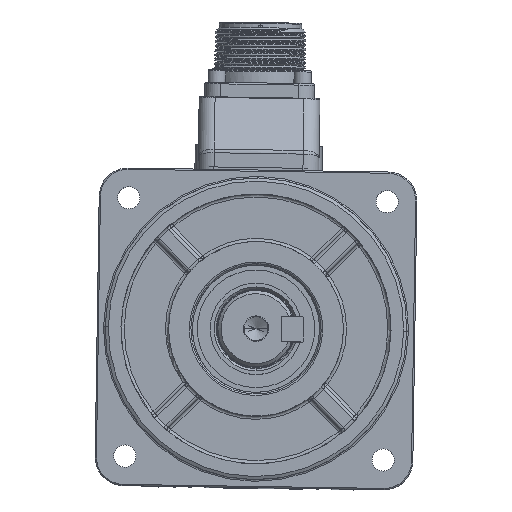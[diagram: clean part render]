
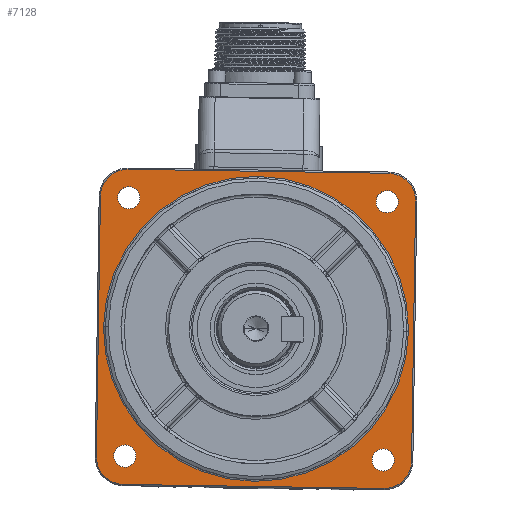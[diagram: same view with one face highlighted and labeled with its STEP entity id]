
A CAD part, top view. The second image highlights one B-rep face of the part: STEP entity #7128.
In plain terms, the highlighted planar face has unit normal (0, 0, 1) as drawn and (0, 1, 0) by its records, which use the part's own axes.
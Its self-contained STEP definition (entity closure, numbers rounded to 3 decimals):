
#1373=CARTESIAN_POINT('',(-41.,0.,-41.));
#1374=DIRECTION('',(0.,-1.,0.));
#1375=DIRECTION('',(-1.,0.,0.));
#1376=AXIS2_PLACEMENT_3D('',#1373,#1374,#1375);
#1378=DIRECTION('',(1.,0.,0.));
#1379=VECTOR('',#1378,82.);
#1380=CARTESIAN_POINT('',(-41.,0.,
-49.6));
#1381=LINE('',#1380,#1379);
#1382=CARTESIAN_POINT('',(41.,0.,-41.));
#1383=DIRECTION('',(0.,-1.,0.));
#1384=DIRECTION('',(0.,0.,-1.));
#1385=AXIS2_PLACEMENT_3D('',#1382,#1383,#1384);
#1387=DIRECTION('',(0.,0.,1.));
#1388=VECTOR('',#1387,82.);
#1389=CARTESIAN_POINT('',(49.6,0.,
-41.));
#1390=LINE('',#1389,#1388);
#1391=CARTESIAN_POINT('',(41.,0.,41.));
#1392=DIRECTION('',(0.,-1.,0.));
#1393=DIRECTION('',(1.,0.,0.));
#1394=AXIS2_PLACEMENT_3D('',#1391,#1392,#1393);
#1396=DIRECTION('',(-1.,0.,0.));
#1397=VECTOR('',#1396,82.);
#1398=CARTESIAN_POINT('',(41.,0.,
49.6));
#1399=LINE('',#1398,#1397);
#1400=CARTESIAN_POINT('',(-41.,0.,41.));
#1401=DIRECTION('',(0.,-1.,0.));
#1402=DIRECTION('',(0.,0.,1.));
#1403=AXIS2_PLACEMENT_3D('',#1400,#1401,#1402);
#1405=DIRECTION('',(0.,0.,-1.));
#1406=VECTOR('',#1405,82.);
#1407=CARTESIAN_POINT('',(-49.6,0.,
41.));
#1408=LINE('',#1407,#1406);
#1409=CARTESIAN_POINT('',(-40.659,0.,-40.659));
#1410=DIRECTION('',(0.,1.,0.));
#1411=DIRECTION('',(0.,0.,1.));
#1412=AXIS2_PLACEMENT_3D('',#1409,#1410,#1411);
#1414=CARTESIAN_POINT('',(-40.659,0.,-40.659));
#1415=DIRECTION('',(0.,1.,0.));
#1416=DIRECTION('',(0.,0.,-1.));
#1417=AXIS2_PLACEMENT_3D('',#1414,#1415,#1416);
#1419=CARTESIAN_POINT('',(-40.659,0.,40.659));
#1420=DIRECTION('',(0.,1.,0.));
#1421=DIRECTION('',(1.,0.,0.));
#1422=AXIS2_PLACEMENT_3D('',#1419,#1420,#1421);
#1424=CARTESIAN_POINT('',(-40.659,0.,40.659));
#1425=DIRECTION('',(0.,1.,0.));
#1426=DIRECTION('',(-1.,0.,0.));
#1427=AXIS2_PLACEMENT_3D('',#1424,#1425,#1426);
#1429=CARTESIAN_POINT('',(40.659,0.,40.659));
#1430=DIRECTION('',(0.,1.,0.));
#1431=DIRECTION('',(0.,0.,-1.));
#1432=AXIS2_PLACEMENT_3D('',#1429,#1430,#1431);
#1434=CARTESIAN_POINT('',(40.659,0.,40.659));
#1435=DIRECTION('',(0.,1.,0.));
#1436=DIRECTION('',(0.,0.,1.));
#1437=AXIS2_PLACEMENT_3D('',#1434,#1435,#1436);
#1439=CARTESIAN_POINT('',(0.,0.,0.));
#1440=DIRECTION('',(0.,1.,0.));
#1441=DIRECTION('',(-1.,0.,0.));
#1442=AXIS2_PLACEMENT_3D('',#1439,#1440,#1441);
#1444=CARTESIAN_POINT('',(0.,0.,0.));
#1445=DIRECTION('',(0.,1.,0.));
#1446=DIRECTION('',(-1.,0.,0.006));
#1447=AXIS2_PLACEMENT_3D('',#1444,#1445,#1446);
#1449=CARTESIAN_POINT('',(0.,0.,0.));
#1450=DIRECTION('',(0.,1.,0.));
#1451=DIRECTION('',(1.,0.,0.));
#1452=AXIS2_PLACEMENT_3D('',#1449,#1450,#1451);
#1454=CARTESIAN_POINT('',(0.,0.,0.));
#1455=DIRECTION('',(0.,1.,0.));
#1456=DIRECTION('',(1.,0.,-0.006));
#1457=AXIS2_PLACEMENT_3D('',#1454,#1455,#1456);
#1459=CARTESIAN_POINT('',(40.659,0.,-40.659));
#1460=DIRECTION('',(0.,1.,0.));
#1461=DIRECTION('',(-1.,0.,0.));
#1462=AXIS2_PLACEMENT_3D('',#1459,#1460,#1461);
#1464=CARTESIAN_POINT('',(40.659,0.,-40.659));
#1465=DIRECTION('',(0.,1.,0.));
#1466=DIRECTION('',(1.,0.,0.));
#1467=AXIS2_PLACEMENT_3D('',#1464,#1465,#1466);
#6583=CARTESIAN_POINT('',(41.,0.,
49.6));
#6584=CARTESIAN_POINT('',(-41.,0.,
49.6));
#6585=VERTEX_POINT('',#6583);
#6586=VERTEX_POINT('',#6584);
#6587=CARTESIAN_POINT('',(-49.6,0.,-41.));
#6588=CARTESIAN_POINT('',(-41.,0.,-49.6));
#6589=VERTEX_POINT('',#6587);
#6590=VERTEX_POINT('',#6588);
#6591=CARTESIAN_POINT('',(41.,0.,
-49.6));
#6592=VERTEX_POINT('',#6591);
#6593=CARTESIAN_POINT('',(49.6,0.,-41.));
#6594=VERTEX_POINT('',#6593);
#6595=CARTESIAN_POINT('',(49.6,0.,41.));
#6596=VERTEX_POINT('',#6595);
#6597=CARTESIAN_POINT('',(-49.6,0.,41.));
#6598=VERTEX_POINT('',#6597);
#6599=CARTESIAN_POINT('',(-40.659,0.,-37.159));
#6600=CARTESIAN_POINT('',(-40.659,0.,-44.159));
#6601=VERTEX_POINT('',#6599);
#6602=VERTEX_POINT('',#6600);
#6603=CARTESIAN_POINT('',(-37.159,0.,40.659));
#6604=CARTESIAN_POINT('',(-44.159,0.,40.659));
#6605=VERTEX_POINT('',#6603);
#6606=VERTEX_POINT('',#6604);
#6607=CARTESIAN_POINT('',(40.659,0.,37.159));
#6608=CARTESIAN_POINT('',(40.659,0.,44.159));
#6609=VERTEX_POINT('',#6607);
#6610=VERTEX_POINT('',#6608);
#6611=CARTESIAN_POINT('',(-47.999,0.,0.3));
#6612=CARTESIAN_POINT('',(48.,0.,0.));
#6613=VERTEX_POINT('',#6611);
#6614=VERTEX_POINT('',#6612);
#6615=CARTESIAN_POINT('',(-48.,0.,0.));
#6616=VERTEX_POINT('',#6615);
#6617=CARTESIAN_POINT('',(47.999,0.,-0.3));
#6618=VERTEX_POINT('',#6617);
#6619=CARTESIAN_POINT('',(37.159,0.,-40.659));
#6620=CARTESIAN_POINT('',(44.159,0.,-40.659));
#6621=VERTEX_POINT('',#6619);
#6622=VERTEX_POINT('',#6620);
#7075=CARTESIAN_POINT('',(0.,0.,0.));
#7076=DIRECTION('',(0.,-1.,0.));
#7077=DIRECTION('',(-1.,0.,0.));
#7078=AXIS2_PLACEMENT_3D('',#7075,#7076,#7077);
#7079=PLANE('',#7078);
#7081=ORIENTED_EDGE('',*,*,#7080,.T.);
#7083=ORIENTED_EDGE('',*,*,#7082,.T.);
#7085=ORIENTED_EDGE('',*,*,#7084,.T.);
#7087=ORIENTED_EDGE('',*,*,#7086,.T.);
#7089=ORIENTED_EDGE('',*,*,#7088,.T.);
#7091=ORIENTED_EDGE('',*,*,#7090,.T.);
#7093=ORIENTED_EDGE('',*,*,#7092,.T.);
#7095=ORIENTED_EDGE('',*,*,#7094,.T.);
#7096=EDGE_LOOP('',(#7081,#7083,#7085,#7087,#7089,#7091,#7093,#7095));
#7097=FACE_OUTER_BOUND('',#7096,.F.);
#7099=ORIENTED_EDGE('',*,*,#7098,.T.);
#7101=ORIENTED_EDGE('',*,*,#7100,.T.);
#7102=EDGE_LOOP('',(#7099,#7101));
#7103=FACE_BOUND('',#7102,.F.);
#7105=ORIENTED_EDGE('',*,*,#7104,.T.);
#7107=ORIENTED_EDGE('',*,*,#7106,.T.);
#7108=EDGE_LOOP('',(#7105,#7107));
#7109=FACE_BOUND('',#7108,.F.);
#7111=ORIENTED_EDGE('',*,*,#7110,.T.);
#7113=ORIENTED_EDGE('',*,*,#7112,.T.);
#7114=EDGE_LOOP('',(#7111,#7113));
#7115=FACE_BOUND('',#7114,.F.);
#7116=ORIENTED_EDGE('',*,*,#7052,.T.);
#7117=ORIENTED_EDGE('',*,*,#7050,.T.);
#7118=ORIENTED_EDGE('',*,*,#7069,.T.);
#7119=ORIENTED_EDGE('',*,*,#7067,.T.);
#7120=EDGE_LOOP('',(#7116,#7117,#7118,#7119));
#7121=FACE_BOUND('',#7120,.F.);
#7123=ORIENTED_EDGE('',*,*,#7122,.T.);
#7125=ORIENTED_EDGE('',*,*,#7124,.T.);
#7126=EDGE_LOOP('',(#7123,#7125));
#7127=FACE_BOUND('',#7126,.F.);
#7128=ADVANCED_FACE('',(#7097,#7103,#7109,#7115,#7121,#7127),#7079,.F.);
#1377=CIRCLE('',#1376,8.6);
#1386=CIRCLE('',#1385,8.6);
#1395=CIRCLE('',#1394,8.6);
#1404=CIRCLE('',#1403,8.6);
#1413=CIRCLE('',#1412,3.5);
#1418=CIRCLE('',#1417,3.5);
#1423=CIRCLE('',#1422,3.5);
#1428=CIRCLE('',#1427,3.5);
#1433=CIRCLE('',#1432,3.5);
#1438=CIRCLE('',#1437,3.5);
#1443=CIRCLE('',#1442,48.);
#1448=CIRCLE('',#1447,48.);
#1453=CIRCLE('',#1452,48.);
#1458=CIRCLE('',#1457,48.);
#1463=CIRCLE('',#1462,3.5);
#1468=CIRCLE('',#1467,3.5);
#7050=EDGE_CURVE('',#6613,#6614,#1448,.T.);
#7052=EDGE_CURVE('',#6616,#6613,#1443,.T.);
#7067=EDGE_CURVE('',#6618,#6616,#1458,.T.);
#7069=EDGE_CURVE('',#6614,#6618,#1453,.T.);
#7080=EDGE_CURVE('',#6589,#6590,#1377,.T.);
#7082=EDGE_CURVE('',#6590,#6592,#1381,.T.);
#7084=EDGE_CURVE('',#6592,#6594,#1386,.T.);
#7086=EDGE_CURVE('',#6594,#6596,#1390,.T.);
#7088=EDGE_CURVE('',#6596,#6585,#1395,.T.);
#7090=EDGE_CURVE('',#6585,#6586,#1399,.T.);
#7092=EDGE_CURVE('',#6586,#6598,#1404,.T.);
#7094=EDGE_CURVE('',#6598,#6589,#1408,.T.);
#7098=EDGE_CURVE('',#6601,#6602,#1413,.T.);
#7100=EDGE_CURVE('',#6602,#6601,#1418,.T.);
#7104=EDGE_CURVE('',#6605,#6606,#1423,.T.);
#7106=EDGE_CURVE('',#6606,#6605,#1428,.T.);
#7110=EDGE_CURVE('',#6609,#6610,#1433,.T.);
#7112=EDGE_CURVE('',#6610,#6609,#1438,.T.);
#7122=EDGE_CURVE('',#6621,#6622,#1463,.T.);
#7124=EDGE_CURVE('',#6622,#6621,#1468,.T.);
